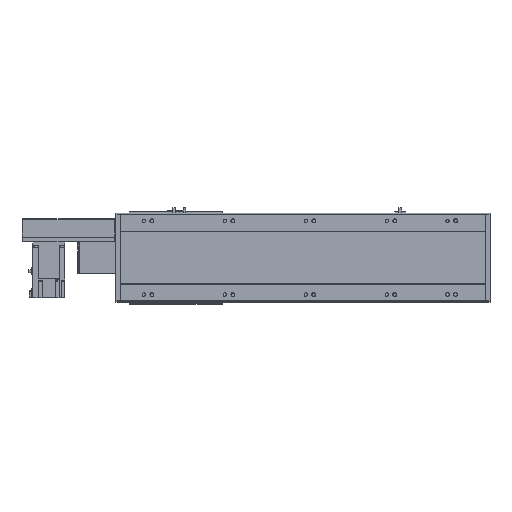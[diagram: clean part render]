
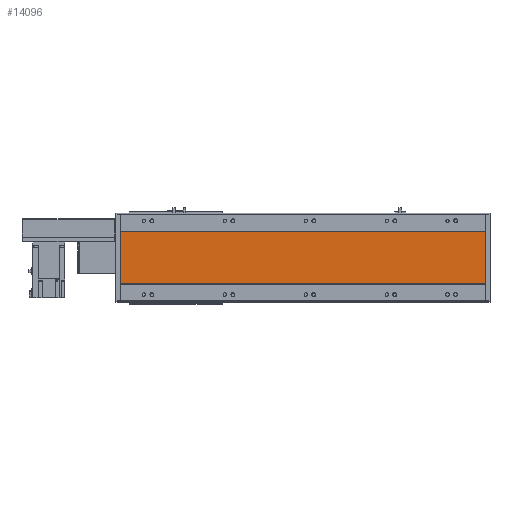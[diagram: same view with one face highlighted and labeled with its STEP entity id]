
A CAD part, front view. The second image highlights one B-rep face of the part: STEP entity #14096.
In plain terms, the highlighted planar face has unit normal (0, -1, 0).
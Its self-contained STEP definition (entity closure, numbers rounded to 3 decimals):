
#3127=ORIENTED_EDGE('',*,*,#6312,.T.);
#3128=ORIENTED_EDGE('',*,*,#6313,.F.);
#3129=ORIENTED_EDGE('',*,*,#6314,.F.);
#3130=ORIENTED_EDGE('',*,*,#6310,.T.);
#6310=EDGE_CURVE('',#8025,#8024,#9290,.T.);
#6312=EDGE_CURVE('',#8024,#8026,#9291,.T.);
#6313=EDGE_CURVE('',#8027,#8026,#9292,.T.);
#6314=EDGE_CURVE('',#8025,#8027,#9293,.T.);
#8024=VERTEX_POINT('',#23205);
#8025=VERTEX_POINT('',#23207);
#8026=VERTEX_POINT('',#23211);
#8027=VERTEX_POINT('',#23213);
#9290=LINE('',#23206,#10629);
#9291=LINE('',#23210,#10630);
#9292=LINE('',#23212,#10631);
#9293=LINE('',#23214,#10632);
#10629=VECTOR('',#18569,1000.);
#10630=VECTOR('',#18574,1000.);
#10631=VECTOR('',#18575,1000.);
#10632=VECTOR('',#18576,1000.);
#11574=EDGE_LOOP('',(#3127,#3128,#3129,#3130));
#12625=FACE_BOUND('',#11574,.T.);
#13447=PLANE('',#15370);
#14096=ADVANCED_FACE('',(#12625),#13447,.F.);
#15370=AXIS2_PLACEMENT_3D('',#23209,#18572,#18573);
#18569=DIRECTION('',(-1.,0.,0.));
#18572=DIRECTION('',(0.,1.,0.));
#18573=DIRECTION('',(0.,0.,1.));
#18574=DIRECTION('',(0.,0.,-1.));
#18575=DIRECTION('',(-1.,0.,0.));
#18576=DIRECTION('',(0.,0.,-1.));
#23205=CARTESIAN_POINT('',(12.,1.,64.294));
#23206=CARTESIAN_POINT('',(914.,1.,64.294));
#23207=CARTESIAN_POINT('',(914.,1.,64.294));
#23209=CARTESIAN_POINT('',(914.,1.,64.294));
#23210=CARTESIAN_POINT('',(12.,1.,64.294));
#23211=CARTESIAN_POINT('',(12.,1.,-64.294));
#23212=CARTESIAN_POINT('',(914.,1.,-64.294));
#23213=CARTESIAN_POINT('',(914.,1.,-64.294));
#23214=CARTESIAN_POINT('',(914.,1.,64.294));
